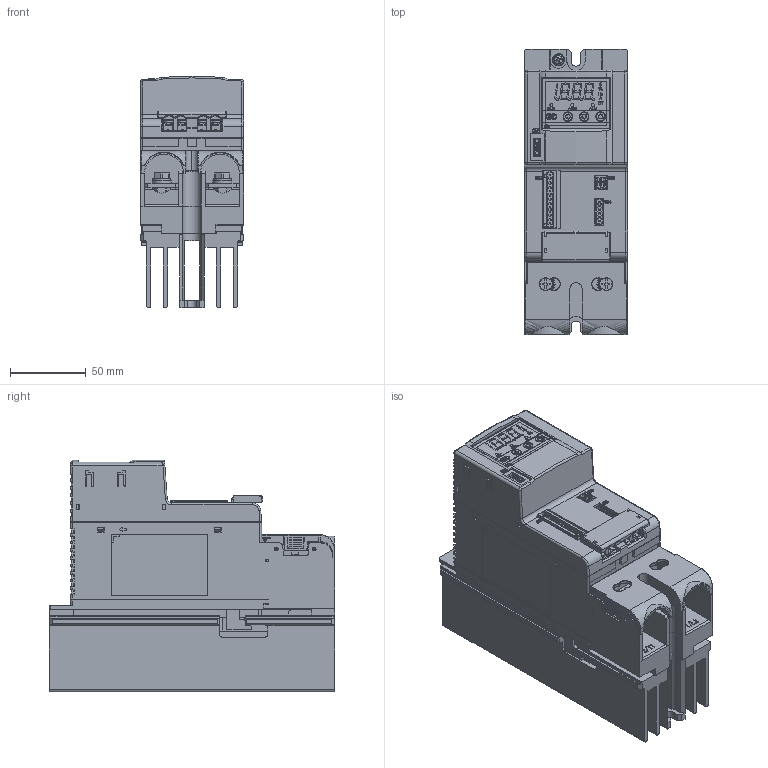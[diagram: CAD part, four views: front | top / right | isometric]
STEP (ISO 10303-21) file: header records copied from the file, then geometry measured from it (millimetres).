
FILE_DESCRIPTION (( 'STEP AP214' ), '1' );
FILE_NAME ('THV10(45 60A)_WEB.STEP', '2020-06-08T08:56:35', ( '' ), ( '' ), 'SwSTEP 2.0', 'SolidWorks 2018', '' );
FILE_SCHEMA (( 'AUTOMOTIVE_DESIGN' ));
Length unit declared in the file: millimetre
Products named in the file (4): THV10_4560A(基本設計)_デフォルト; KTHV4-54 _web_デフォルト; THV10(45 60A)_WEB; KTHV4-53 _WEB_デフォルト
Assembly tree (3 placements, depth 2):
  THV10(45 60A)_WEB
    THV10_4560A(基本設計)_デフォルト
    KTHV4-53 _WEB_デフォルト
    KTHV4-54 _web_デフォルト
Bounding box: 68 x 188 x 152.45 mm (x, y, z)
Volume: 1042661.3 mm3; surface area: 239987.4 mm2
Topology: 3 solids, 6 shells, 5925 faces, 16755 edges, 10922 vertices
Faces by surface type: plane 4432, bspline 837, cylinder 564, cone 39, torus 36, sphere 17
Full cylindrical faces by diameter (mm): 0.4 x1, 0.457 x1, 0.7 x4, 1.262 x4, 1.6 x1, 1.8 x2, 2.2 x1, 2.3 x4, 3 x8, 4 x5, 4.5 x1, 5.5 x4, 6 x4, 7 x1, 8 x3, 11.5 x2, 12.5 x2
Entity records: 264992 total; most frequent: CARTESIAN_POINT 58955, ORIENTED_EDGE 33216, DIRECTION 25349, EDGE_CURVE 16608, VECTOR 12725, LINE 12725, VERTEX_POINT 10899, EDGE_LOOP 6357
